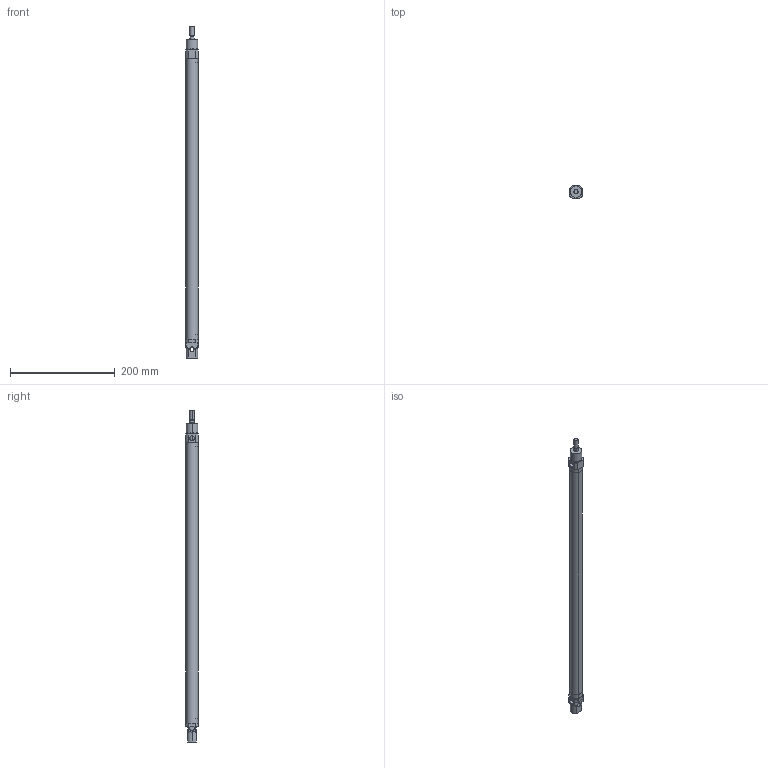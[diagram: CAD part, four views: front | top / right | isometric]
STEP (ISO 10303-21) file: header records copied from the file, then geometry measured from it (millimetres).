
FILE_DESCRIPTION (( 'STEP AP203' ), '1' );
FILE_NAME ('MA-CR-S-20x500CYLINDER.STEP', '2016-11-23T13:32:12', ( 'user' ), ( '' ), 'SwSTEP 2.0', 'SolidWorks 2013', '' );
FILE_SCHEMA (( 'CONFIG_CONTROL_DESIGN' ));
Length unit declared in the file: millimetre
Products named in the file (5): MA-CR-S  20 ARKA KAPAK ; MA-CR-S  20 烰 KAPAK ; MA-CR-S  20x500 BORU; MA-CR-S  20x500 M尳; MA-CR-S-20x500CYLINDER
Assembly tree (4 placements, depth 2):
  MA-CR-S-20x500CYLINDER
    MA-CR-S  20 ARKA KAPAK 
    MA-CR-S  20 烰 KAPAK 
    MA-CR-S  20x500 BORU
    MA-CR-S  20x500 M尳
Bounding box: 24 x 24 x 633.8 mm (x, y, z)
Volume: 118888.6 mm3; surface area: 99352.7 mm2
Topology: 4 solids, 4 shells, 102 faces, 247 edges, 160 vertices
Faces by surface type: cylinder 56, plane 36, cone 10
Entity records: 3658 total; most frequent: CARTESIAN_POINT 643, DIRECTION 571, ORIENTED_EDGE 494, EDGE_CURVE 247, AXIS2_PLACEMENT_3D 228, VERTEX_POINT 160, CIRCLE 120, EDGE_LOOP 117
